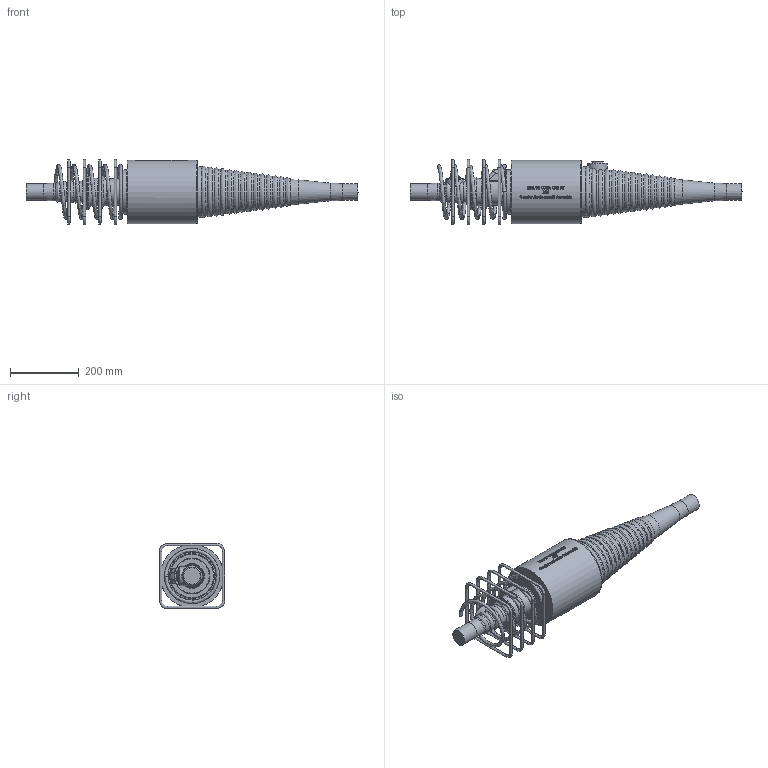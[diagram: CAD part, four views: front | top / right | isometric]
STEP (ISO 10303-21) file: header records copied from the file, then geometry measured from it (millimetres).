
FILE_DESCRIPTION(/* description */ (''),/* implementation_level */ '2;1');
FILE_NAME(/* name */ 'Z:\04 Publications\05 Give-out\BBR\6_3D_Models\BBR VT CONA CMI\BBR VT CONA CMI BT\00206\BBR VT CONA CMI BT 206_Coupler H Assembly_CS-34,28.stp',/* time_stamp */ '2017-05-04T10:55:37+02:00',/* author */ ('IP'),/* organization */ (''),/* preprocessor_version */ 'ST-DEVELOPER v16.1',/* originating_system */ 'Autodesk Inventor 2016',/* authorisation */ '');
FILE_SCHEMA (('AUTOMOTIVE_DESIGN { 1 0 10303 214 3 1 1 }'));
Length unit declared in the file: millimetre
Products named in the file (1): BBR VT CONA CMI BT 206_Coupler H Assembly_CS-34,28
Bounding box: 965.07 x 190 x 190 mm (x, y, z)
Volume: 10556686.8 mm3; surface area: 527314.7 mm2
Topology: 6 solids, 6 shells, 918 faces, 2355 edges, 1504 vertices
Faces by surface type: bspline 388, plane 295, torus 97, cylinder 97, cone 29, sphere 12
Full cylindrical faces by diameter (mm): 8 x16, 32 x1, 34.158 x1, 49 x1, 55 x1, 57 x1, 104 x2, 130 x1, 185 x1
Entity records: 36897 total; most frequent: CARTESIAN_POINT 17089, ORIENTED_EDGE 4436, DIRECTION 3060, EDGE_CURVE 2218, VERTEX_POINT 1493, EDGE_LOOP 1107, AXIS2_PLACEMENT_3D 1084, FACE_OUTER_BOUND 918
